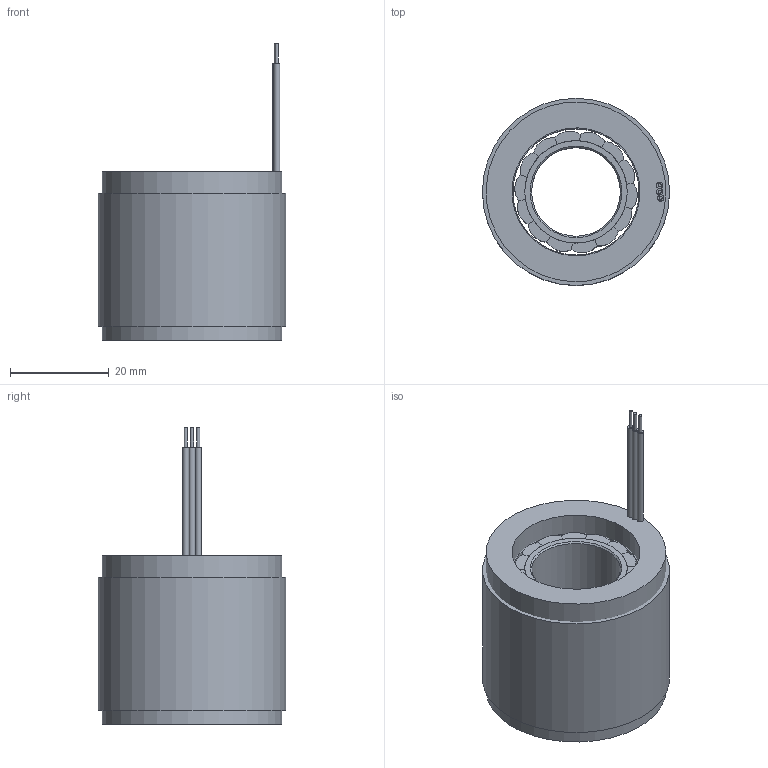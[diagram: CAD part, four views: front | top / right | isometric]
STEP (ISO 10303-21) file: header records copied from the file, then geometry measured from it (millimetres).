
FILE_DESCRIPTION (( 'STEP AP214' ), '1' );
FILE_NAME ('3828萇儂.STEP', '2024-01-17T06:00:02', ( '' ), ( '' ), 'SwSTEP 2.0', 'SolidWorks 2022', '' );
FILE_SCHEMA (( 'AUTOMOTIVE_DESIGN' ));
Length unit declared in the file: millimetre
Products named in the file (1): 3828萇儂
Bounding box: 38 x 38 x 60.3 mm (x, y, z)
Volume: 37473.2 mm3; surface area: 43453.2 mm2
Topology: 33 solids, 33 shells, 434 faces, 1087 edges, 725 vertices
Faces by surface type: plane 256, cylinder 176, cone 2
Full cylindrical faces by diameter (mm): 0.64 x6, 1.28 x3, 18 x1, 20.8 x1, 25.6 x1, 26 x1, 36 x1, 36.5 x1, 38 x1
Entity records: 18076 total; most frequent: DIRECTION 2290, CARTESIAN_POINT 2223, ORIENTED_EDGE 2132, EDGE_CURVE 1066, AXIS2_PLACEMENT_3D 789, VERTEX_POINT 722, VECTOR 712, LINE 712
